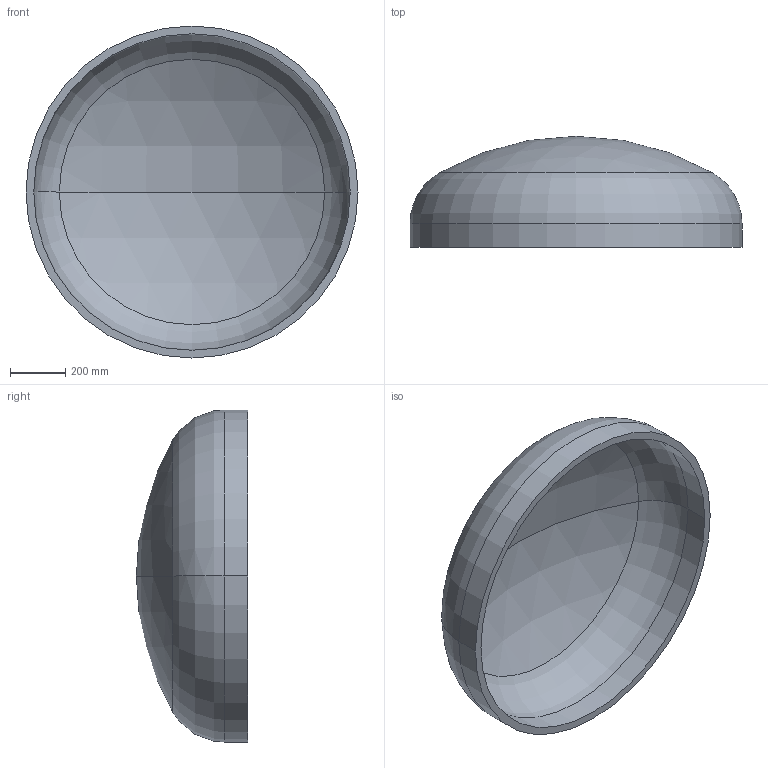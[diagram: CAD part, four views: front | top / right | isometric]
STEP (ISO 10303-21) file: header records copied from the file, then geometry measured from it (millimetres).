
FILE_DESCRIPTION (( 'STEP AP203' ), '1' );
FILE_NAME ('DIN 28013 Korbbogenform_-_Boden DIN 28013 - 1200 x 85 - I - s=28.step', '2016-07-01T09:25:09', ( '' ), ( '' ), 'SwSTEP 2.0', 'SolidWorks 2013', '' );
FILE_SCHEMA (( 'CONFIG_CONTROL_DESIGN' ));
Length unit declared in the file: millimetre
Products named in the file (1): DIN 28013 Korbbogenform_-_Boden DIN 28013 - 1200 x 85 - I - s=28
Bounding box: 1200 x 401.54 x 1200 mm (x, y, z)
Volume: 51307291 mm3; surface area: 3769541.9 mm2
Topology: 1 solids, 1 shells, 13 faces, 24 edges, 14 vertices
Faces by surface type: torus 4, cylinder 4, sphere 4, plane 1
Entity records: 407 total; most frequent: DIRECTION 72, CARTESIAN_POINT 52, ORIENTED_EDGE 48, AXIS2_PLACEMENT_3D 34, EDGE_CURVE 24, CIRCLE 20, VERTEX_POINT 14, EDGE_LOOP 14
